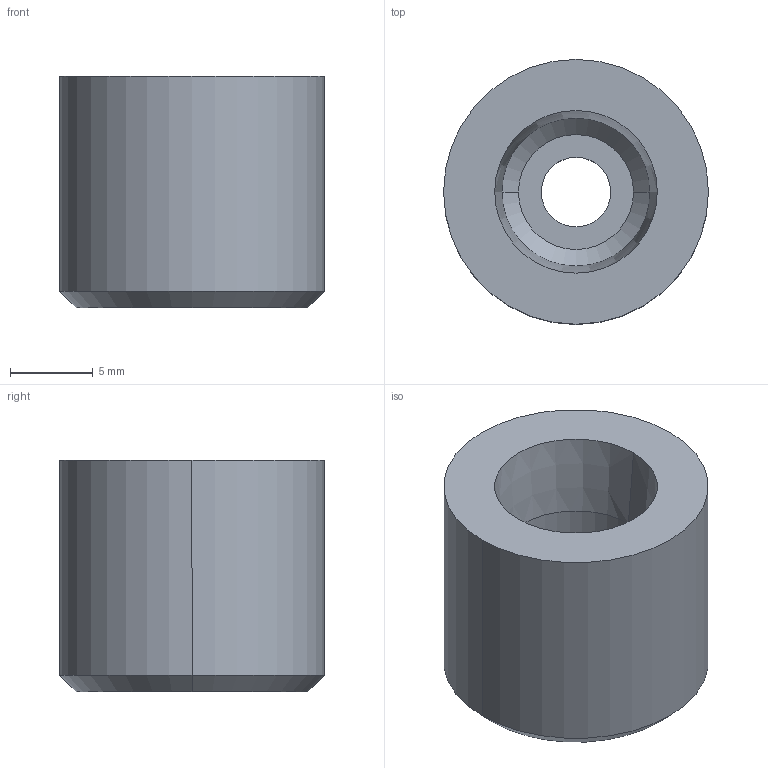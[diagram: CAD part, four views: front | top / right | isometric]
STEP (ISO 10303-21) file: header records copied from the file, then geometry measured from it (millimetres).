
FILE_DESCRIPTION (( 'STEP AP214' ), '1' );
FILE_NAME ('ZTPNB16-5.STEP', '2024-06-04T14:44:53', ( '' ), ( '' ), 'SwSTEP 2.0', 'SolidWorks 2017', '' );
FILE_SCHEMA (( 'AUTOMOTIVE_DESIGN' ));
Length unit declared in the file: millimetre
Products named in the file (1): ZTPNB16-5
Bounding box: 16 x 16 x 14 mm (x, y, z)
Volume: 2185.6 mm3; surface area: 1328.3 mm2
Topology: 1 solids, 1 shells, 15 faces, 30 edges, 18 vertices
Faces by surface type: cylinder 6, cone 6, plane 3
Entity records: 454 total; most frequent: DIRECTION 80, CARTESIAN_POINT 64, ORIENTED_EDGE 60, AXIS2_PLACEMENT_3D 34, EDGE_CURVE 30, CIRCLE 18, EDGE_LOOP 18, VERTEX_POINT 18
